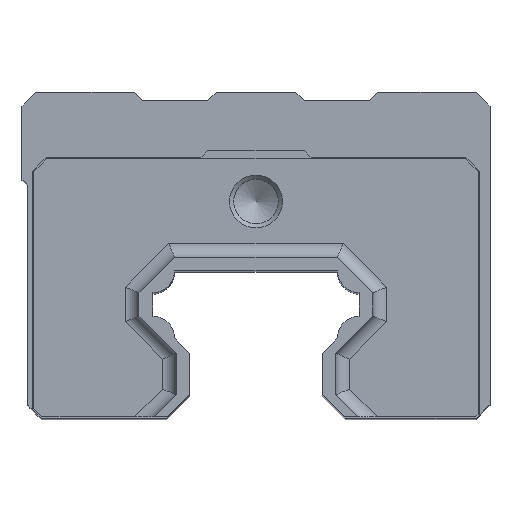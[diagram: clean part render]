
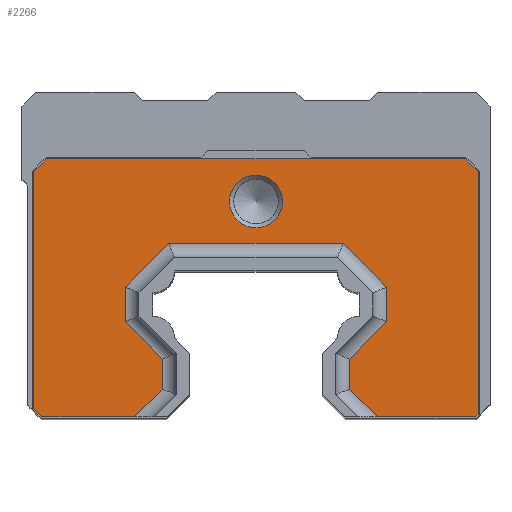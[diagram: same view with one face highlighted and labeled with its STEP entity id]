
A CAD part, top view. The second image highlights one B-rep face of the part: STEP entity #2266.
In plain terms, the highlighted planar face has unit normal (0, 0, 1).
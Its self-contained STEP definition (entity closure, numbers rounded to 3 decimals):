
#39=FACE_BOUND('',#342,.T.);
#45=PLANE('',#2410);
#224=FACE_OUTER_BOUND('',#341,.T.);
#341=EDGE_LOOP('',(#1630,#1631,#1632,#1633,#1634,#1635,#1636,#1637,#1638,
#1639,#1640,#1641,#1642,#1643,#1644,#1645,#1646,#1647,#1648,#1649));
#342=EDGE_LOOP('',(#1650));
#481=LINE('',#3258,#755);
#482=LINE('',#3260,#756);
#483=LINE('',#3262,#757);
#484=LINE('',#3264,#758);
#485=LINE('',#3266,#759);
#486=LINE('',#3268,#760);
#487=LINE('',#3270,#761);
#488=LINE('',#3272,#762);
#489=LINE('',#3274,#763);
#490=LINE('',#3276,#764);
#491=LINE('',#3278,#765);
#492=LINE('',#3280,#766);
#493=LINE('',#3282,#767);
#494=LINE('',#3284,#768);
#495=LINE('',#3286,#769);
#496=LINE('',#3288,#770);
#497=LINE('',#3290,#771);
#498=LINE('',#3292,#772);
#499=LINE('',#3294,#773);
#500=LINE('',#3295,#774);
#755=VECTOR('',#2623,10.);
#756=VECTOR('',#2624,10.);
#757=VECTOR('',#2625,10.);
#758=VECTOR('',#2626,10.);
#759=VECTOR('',#2627,10.);
#760=VECTOR('',#2628,10.);
#761=VECTOR('',#2629,10.);
#762=VECTOR('',#2630,10.);
#763=VECTOR('',#2631,10.);
#764=VECTOR('',#2632,10.);
#765=VECTOR('',#2633,10.);
#766=VECTOR('',#2634,10.);
#767=VECTOR('',#2635,10.);
#768=VECTOR('',#2636,10.);
#769=VECTOR('',#2637,10.);
#770=VECTOR('',#2638,10.);
#771=VECTOR('',#2639,10.);
#772=VECTOR('',#2640,10.);
#773=VECTOR('',#2641,10.);
#774=VECTOR('',#2642,10.);
#1009=CIRCLE('',#2405,1.921);
#1061=VERTEX_POINT('',#3244);
#1065=VERTEX_POINT('',#3256);
#1066=VERTEX_POINT('',#3257);
#1067=VERTEX_POINT('',#3259);
#1068=VERTEX_POINT('',#3261);
#1069=VERTEX_POINT('',#3263);
#1070=VERTEX_POINT('',#3265);
#1071=VERTEX_POINT('',#3267);
#1072=VERTEX_POINT('',#3269);
#1073=VERTEX_POINT('',#3271);
#1074=VERTEX_POINT('',#3273);
#1075=VERTEX_POINT('',#3275);
#1076=VERTEX_POINT('',#3277);
#1077=VERTEX_POINT('',#3279);
#1078=VERTEX_POINT('',#3281);
#1079=VERTEX_POINT('',#3283);
#1080=VERTEX_POINT('',#3285);
#1081=VERTEX_POINT('',#3287);
#1082=VERTEX_POINT('',#3289);
#1083=VERTEX_POINT('',#3291);
#1084=VERTEX_POINT('',#3293);
#1285=EDGE_CURVE('',#1061,#1061,#1009,.T.);
#1291=EDGE_CURVE('',#1065,#1066,#481,.T.);
#1292=EDGE_CURVE('',#1065,#1067,#482,.T.);
#1293=EDGE_CURVE('',#1067,#1068,#483,.T.);
#1294=EDGE_CURVE('',#1068,#1069,#484,.T.);
#1295=EDGE_CURVE('',#1069,#1070,#485,.T.);
#1296=EDGE_CURVE('',#1070,#1071,#486,.T.);
#1297=EDGE_CURVE('',#1071,#1072,#487,.T.);
#1298=EDGE_CURVE('',#1072,#1073,#488,.T.);
#1299=EDGE_CURVE('',#1073,#1074,#489,.T.);
#1300=EDGE_CURVE('',#1074,#1075,#490,.T.);
#1301=EDGE_CURVE('',#1076,#1075,#491,.T.);
#1302=EDGE_CURVE('',#1077,#1076,#492,.T.);
#1303=EDGE_CURVE('',#1078,#1077,#493,.T.);
#1304=EDGE_CURVE('',#1079,#1078,#494,.T.);
#1305=EDGE_CURVE('',#1080,#1079,#495,.T.);
#1306=EDGE_CURVE('',#1081,#1080,#496,.T.);
#1307=EDGE_CURVE('',#1082,#1081,#497,.T.);
#1308=EDGE_CURVE('',#1083,#1082,#498,.T.);
#1309=EDGE_CURVE('',#1084,#1083,#499,.T.);
#1310=EDGE_CURVE('',#1066,#1084,#500,.T.);
#1630=ORIENTED_EDGE('',*,*,#1291,.F.);
#1631=ORIENTED_EDGE('',*,*,#1292,.T.);
#1632=ORIENTED_EDGE('',*,*,#1293,.T.);
#1633=ORIENTED_EDGE('',*,*,#1294,.T.);
#1634=ORIENTED_EDGE('',*,*,#1295,.T.);
#1635=ORIENTED_EDGE('',*,*,#1296,.T.);
#1636=ORIENTED_EDGE('',*,*,#1297,.T.);
#1637=ORIENTED_EDGE('',*,*,#1298,.T.);
#1638=ORIENTED_EDGE('',*,*,#1299,.T.);
#1639=ORIENTED_EDGE('',*,*,#1300,.T.);
#1640=ORIENTED_EDGE('',*,*,#1301,.F.);
#1641=ORIENTED_EDGE('',*,*,#1302,.F.);
#1642=ORIENTED_EDGE('',*,*,#1303,.F.);
#1643=ORIENTED_EDGE('',*,*,#1304,.F.);
#1644=ORIENTED_EDGE('',*,*,#1305,.F.);
#1645=ORIENTED_EDGE('',*,*,#1306,.F.);
#1646=ORIENTED_EDGE('',*,*,#1307,.F.);
#1647=ORIENTED_EDGE('',*,*,#1308,.F.);
#1648=ORIENTED_EDGE('',*,*,#1309,.F.);
#1649=ORIENTED_EDGE('',*,*,#1310,.F.);
#1650=ORIENTED_EDGE('',*,*,#1285,.F.);
#2266=ADVANCED_FACE('',(#224,#39),#45,.T.);
#2405=AXIS2_PLACEMENT_3D('',#3245,#2609,#2610);
#2410=AXIS2_PLACEMENT_3D('',#3255,#2621,#2622);
#2609=DIRECTION('center_axis',(0.,0.,1.));
#2610=DIRECTION('ref_axis',(-1.,0.,0.));
#2621=DIRECTION('center_axis',(0.,0.,1.));
#2622=DIRECTION('ref_axis',(1.,0.,0.));
#2623=DIRECTION('',(-0.707,0.707,0.));
#2624=DIRECTION('',(1.,0.,0.));
#2625=DIRECTION('',(0.707,0.707,0.));
#2626=DIRECTION('',(0.,1.,0.));
#2627=DIRECTION('',(-0.707,0.707,0.));
#2628=DIRECTION('',(-1.,0.,0.));
#2629=DIRECTION('',(-0.707,-0.707,0.));
#2630=DIRECTION('',(0.,-1.,0.));
#2631=DIRECTION('',(0.707,-0.707,0.));
#2632=DIRECTION('',(1.,0.,0.));
#2633=DIRECTION('',(-0.707,-0.707,0.));
#2634=DIRECTION('',(0.,-1.,0.));
#2635=DIRECTION('',(0.707,-0.707,0.));
#2636=DIRECTION('',(0.,-1.,0.));
#2637=DIRECTION('',(-0.707,-0.707,0.));
#2638=DIRECTION('',(-1.,0.,0.));
#2639=DIRECTION('',(-0.707,0.707,0.));
#2640=DIRECTION('',(0.,1.,0.));
#2641=DIRECTION('',(0.707,0.707,0.));
#2642=DIRECTION('',(0.,1.,0.));
#3244=CARTESIAN_POINT('',(1.921,20.05,30.4));
#3245=CARTESIAN_POINT('Origin',(0.,20.05,30.4));
#3255=CARTESIAN_POINT('Origin',(0.,13.775,30.4));
#3256=CARTESIAN_POINT('',(8.814,4.4,30.4));
#3257=CARTESIAN_POINT('',(6.8,6.414,30.4));
#3258=CARTESIAN_POINT('',(3.113,10.101,30.4));
#3259=CARTESIAN_POINT('',(15.959,4.4,30.4));
#3260=CARTESIAN_POINT('',(6.4,4.4,30.4));
#3261=CARTESIAN_POINT('',(16.15,4.591,30.4));
#3262=CARTESIAN_POINT('',(15.959,4.4,30.4));
#3263=CARTESIAN_POINT('',(16.15,22.209,30.4));
#3264=CARTESIAN_POINT('',(16.15,4.591,30.4));
#3265=CARTESIAN_POINT('',(15.209,23.15,30.4));
#3266=CARTESIAN_POINT('',(16.15,22.209,30.4));
#3267=CARTESIAN_POINT('',(-15.209,23.15,30.4));
#3268=CARTESIAN_POINT('',(15.209,23.15,30.4));
#3269=CARTESIAN_POINT('',(-16.15,22.209,30.4));
#3270=CARTESIAN_POINT('',(-15.209,23.15,30.4));
#3271=CARTESIAN_POINT('',(-16.15,4.991,30.4));
#3272=CARTESIAN_POINT('',(-16.15,22.209,30.4));
#3273=CARTESIAN_POINT('',(-15.559,4.4,30.4));
#3274=CARTESIAN_POINT('',(-16.15,4.991,30.4));
#3275=CARTESIAN_POINT('',(-8.814,4.4,30.4));
#3276=CARTESIAN_POINT('',(-15.559,4.4,30.4));
#3277=CARTESIAN_POINT('',(-6.8,6.414,30.4));
#3278=CARTESIAN_POINT('',(-3.913,9.301,30.4));
#3279=CARTESIAN_POINT('',(-6.8,8.603,30.4));
#3280=CARTESIAN_POINT('',(-6.8,9.888,30.4));
#3281=CARTESIAN_POINT('',(-9.5,11.303,30.4));
#3282=CARTESIAN_POINT('',(-6.246,8.05,30.4));
#3283=CARTESIAN_POINT('',(-9.5,13.832,30.4));
#3284=CARTESIAN_POINT('',(-9.5,12.746,30.4));
#3285=CARTESIAN_POINT('',(-6.332,17.,30.4));
#3286=CARTESIAN_POINT('',(-6.993,16.339,30.4));
#3287=CARTESIAN_POINT('',(6.332,17.,30.4));
#3288=CARTESIAN_POINT('',(-2.959,17.,30.4));
#3289=CARTESIAN_POINT('',(9.5,13.832,30.4));
#3290=CARTESIAN_POINT('',(5.701,17.63,30.4));
#3291=CARTESIAN_POINT('',(9.5,11.303,30.4));
#3292=CARTESIAN_POINT('',(9.5,13.596,30.4));
#3293=CARTESIAN_POINT('',(6.8,8.603,30.4));
#3294=CARTESIAN_POINT('',(7.596,9.4,30.4));
#3295=CARTESIAN_POINT('',(6.8,11.396,30.4));
